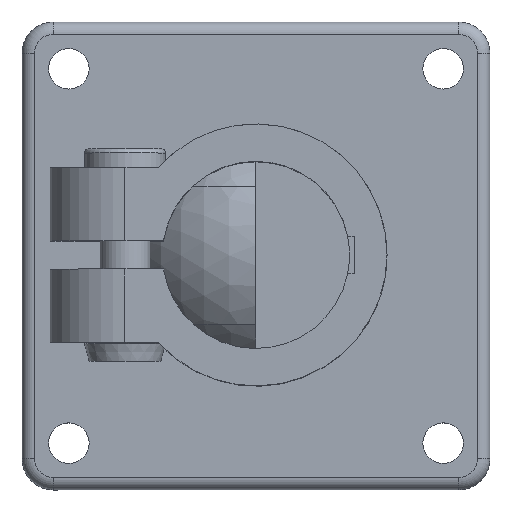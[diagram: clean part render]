
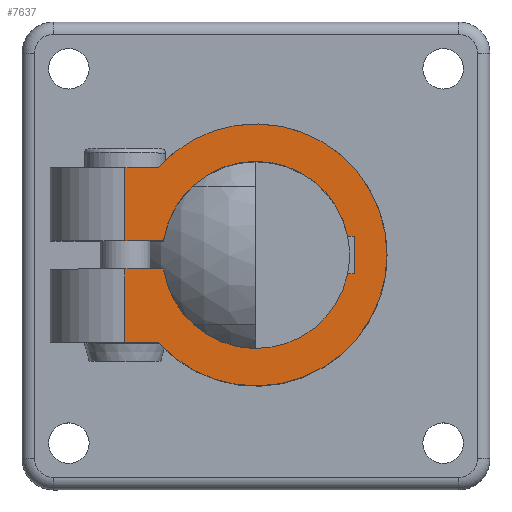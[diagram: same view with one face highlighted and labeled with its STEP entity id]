
A CAD part, top view. The second image highlights one B-rep face of the part: STEP entity #7637.
In plain terms, the highlighted planar face has unit normal (0, 0, 1) as drawn and (-1, 0, 0) by its records, which use the part's own axes.
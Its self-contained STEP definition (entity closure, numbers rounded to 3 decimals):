
#2 = VERTEX_POINT ( 'NONE', #6266 ) ;
#41 = VECTOR ( 'NONE', #778, 1000. ) ;
#160 = DIRECTION ( 'NONE',  ( -1., 0., 0. ) ) ;
#194 = VECTOR ( 'NONE', #310, 1000. ) ;
#212 = VERTEX_POINT ( 'NONE', #3090 ) ;
#265 = AXIS2_PLACEMENT_3D ( 'NONE', #8460, #2691, #1400 ) ;
#305 = VERTEX_POINT ( 'NONE', #2664 ) ;
#310 = DIRECTION ( 'NONE',  ( 0., 0., 1. ) ) ;
#358 = LINE ( 'NONE', #5930, #194 ) ;
#462 = EDGE_CURVE ( 'NONE', #305, #4903, #5751, .T. ) ;
#726 = CARTESIAN_POINT ( 'NONE',  ( -45., -2.25, 14.83 ) ) ;
#778 = DIRECTION ( 'NONE',  ( 0., 1., 0. ) ) ;
#839 = CARTESIAN_POINT ( 'NONE',  ( -45., 2.25, 14.83 ) ) ;
#840 = LINE ( 'NONE', #6463, #4231 ) ;
#971 = VECTOR ( 'NONE', #2153, 1000. ) ;
#998 = DIRECTION ( 'NONE',  ( 0., 0., 1. ) ) ;
#1115 = VECTOR ( 'NONE', #998, 1000. ) ;
#1363 = EDGE_CURVE ( 'NONE', #8976, #3918, #8562, .T. ) ;
#1391 = VECTOR ( 'NONE', #7469, 1000. ) ;
#1400 = DIRECTION ( 'NONE',  ( 0., -0.667, 0.745 ) ) ;
#1418 = EDGE_CURVE ( 'NONE', #3918, #212, #3269, .T. ) ;
#1447 = CARTESIAN_POINT ( 'NONE',  ( -45., 0., 0. ) ) ;
#1453 = DIRECTION ( 'NONE',  ( 0., 0., -1. ) ) ;
#1547 = VERTEX_POINT ( 'NONE', #1776 ) ;
#1554 = CARTESIAN_POINT ( 'NONE',  ( -45., -14., 21. ) ) ;
#1556 = ORIENTED_EDGE ( 'NONE', *, *, #2996, .F. ) ;
#1675 = CARTESIAN_POINT ( 'NONE',  ( -45., 2.25, 21. ) ) ;
#1759 = ORIENTED_EDGE ( 'NONE', *, *, #6742, .F. ) ;
#1776 = CARTESIAN_POINT ( 'NONE',  ( -45., 0., -21. ) ) ;
#1895 = LINE ( 'NONE', #5399, #1391 ) ;
#1948 = PLANE ( 'NONE',  #5117 ) ;
#2032 = ORIENTED_EDGE ( 'NONE', *, *, #7799, .F. ) ;
#2111 = DIRECTION ( 'NONE',  ( 0., 0., 1. ) ) ;
#2128 = CARTESIAN_POINT ( 'NONE',  ( -45., -3., -14.697 ) ) ;
#2153 = DIRECTION ( 'NONE',  ( 0., -1., 0. ) ) ;
#2226 = EDGE_CURVE ( 'NONE', #2918, #2, #4289, .T. ) ;
#2236 = CARTESIAN_POINT ( 'NONE',  ( -45., 2.25, 21. ) ) ;
#2299 = CARTESIAN_POINT ( 'NONE',  ( -45., -14., 21. ) ) ;
#2319 = CIRCLE ( 'NONE', #3508, 21. ) ;
#2491 = ORIENTED_EDGE ( 'NONE', *, *, #1363, .F. ) ;
#2606 = ORIENTED_EDGE ( 'NONE', *, *, #8788, .T. ) ;
#2664 = CARTESIAN_POINT ( 'NONE',  ( -45., -2.25, 14.83 ) ) ;
#2689 = DIRECTION ( 'NONE',  ( -1., 0., 0. ) ) ;
#2691 = DIRECTION ( 'NONE',  ( -1., 0., 0. ) ) ;
#2738 = CARTESIAN_POINT ( 'NONE',  ( -45., 0., 0. ) ) ;
#2828 = DIRECTION ( 'NONE',  ( 0., -0.667, 0.745 ) ) ;
#2854 = CARTESIAN_POINT ( 'NONE',  ( -45., -3., -15.75 ) ) ;
#2918 = VERTEX_POINT ( 'NONE', #2854 ) ;
#2996 = EDGE_CURVE ( 'NONE', #2918, #8162, #358, .T. ) ;
#3079 = VERTEX_POINT ( 'NONE', #5201 ) ;
#3090 = CARTESIAN_POINT ( 'NONE',  ( -45., 3., -14.697 ) ) ;
#3269 = CIRCLE ( 'NONE', #3714, 15. ) ;
#3508 = AXIS2_PLACEMENT_3D ( 'NONE', #2738, #6325, #2828 ) ;
#3623 = CARTESIAN_POINT ( 'NONE',  ( -45., 14., 21. ) ) ;
#3714 = AXIS2_PLACEMENT_3D ( 'NONE', #5917, #160, #5785 ) ;
#3918 = VERTEX_POINT ( 'NONE', #839 ) ;
#4090 = ORIENTED_EDGE ( 'NONE', *, *, #6803, .T. ) ;
#4231 = VECTOR ( 'NONE', #4262, 1000. ) ;
#4262 = DIRECTION ( 'NONE',  ( 0., -1., 0. ) ) ;
#4289 = LINE ( 'NONE', #7094, #41 ) ;
#4361 = DIRECTION ( 'NONE',  ( 0., 0.15, 0.989 ) ) ;
#4514 = AXIS2_PLACEMENT_3D ( 'NONE', #1447, #7120, #4361 ) ;
#4601 = ORIENTED_EDGE ( 'NONE', *, *, #8862, .T. ) ;
#4617 = ORIENTED_EDGE ( 'NONE', *, *, #1418, .F. ) ;
#4826 = CIRCLE ( 'NONE', #265, 21. ) ;
#4903 = VERTEX_POINT ( 'NONE', #7546 ) ;
#5099 = ORIENTED_EDGE ( 'NONE', *, *, #6296, .F. ) ;
#5117 = AXIS2_PLACEMENT_3D ( 'NONE', #6279, #2689, #7022 ) ;
#5201 = CARTESIAN_POINT ( 'NONE',  ( -45., -14., 21. ) ) ;
#5252 = CIRCLE ( 'NONE', #4514, 15. ) ;
#5399 = CARTESIAN_POINT ( 'NONE',  ( -45., 14., 15.652 ) ) ;
#5438 = ORIENTED_EDGE ( 'NONE', *, *, #2226, .T. ) ;
#5459 = ORIENTED_EDGE ( 'NONE', *, *, #8331, .T. ) ;
#5472 = CARTESIAN_POINT ( 'NONE',  ( -45., 3., -14.25 ) ) ;
#5548 = FACE_OUTER_BOUND ( 'NONE', #8040, .T. ) ;
#5557 = EDGE_CURVE ( 'NONE', #7400, #6752, #1895, .T. ) ;
#5657 = VERTEX_POINT ( 'NONE', #8251 ) ;
#5699 = VECTOR ( 'NONE', #8283, 1000. ) ;
#5704 = ORIENTED_EDGE ( 'NONE', *, *, #5557, .F. ) ;
#5751 = LINE ( 'NONE', #726, #6490 ) ;
#5785 = DIRECTION ( 'NONE',  ( 0., 0.15, 0.989 ) ) ;
#5887 = LINE ( 'NONE', #2299, #1115 ) ;
#5917 = CARTESIAN_POINT ( 'NONE',  ( -45., 0., 0. ) ) ;
#5930 = CARTESIAN_POINT ( 'NONE',  ( -45., -3., -14.25 ) ) ;
#6266 = CARTESIAN_POINT ( 'NONE',  ( -45., 3., -15.75 ) ) ;
#6279 = CARTESIAN_POINT ( 'NONE',  ( -45., -21.42, -21. ) ) ;
#6296 = EDGE_CURVE ( 'NONE', #4903, #3079, #7912, .T. ) ;
#6325 = DIRECTION ( 'NONE',  ( -1., 0., 0. ) ) ;
#6463 = CARTESIAN_POINT ( 'NONE',  ( -45., 2.25, 21. ) ) ;
#6490 = VECTOR ( 'NONE', #2111, 1000. ) ;
#6742 = EDGE_CURVE ( 'NONE', #8162, #305, #5252, .T. ) ;
#6752 = VERTEX_POINT ( 'NONE', #3623 ) ;
#6803 = EDGE_CURVE ( 'NONE', #5657, #3079, #5887, .T. ) ;
#7022 = DIRECTION ( 'NONE',  ( 0., 0., 1. ) ) ;
#7094 = CARTESIAN_POINT ( 'NONE',  ( -45., -3., -15.75 ) ) ;
#7120 = DIRECTION ( 'NONE',  ( -1., 0., 0. ) ) ;
#7351 = CARTESIAN_POINT ( 'NONE',  ( -45., 14., 15.652 ) ) ;
#7383 = VECTOR ( 'NONE', #1453, 1000. ) ;
#7400 = VERTEX_POINT ( 'NONE', #7351 ) ;
#7469 = DIRECTION ( 'NONE',  ( 0., 0., 1. ) ) ;
#7546 = CARTESIAN_POINT ( 'NONE',  ( -45., -2.25, 21. ) ) ;
#7637 = ADVANCED_FACE ( 'NONE', ( #5548 ), #1948, .T. ) ;
#7638 = ORIENTED_EDGE ( 'NONE', *, *, #462, .F. ) ;
#7799 = EDGE_CURVE ( 'NONE', #6752, #8976, #840, .T. ) ;
#7912 = LINE ( 'NONE', #1554, #971 ) ;
#8040 = EDGE_LOOP ( 'NONE', ( #1759, #1556, #5438, #5459, #4617, #2491, #2032, #5704, #4601, #2606, #4090, #5099, #7638 ) ) ;
#8162 = VERTEX_POINT ( 'NONE', #2128 ) ;
#8251 = CARTESIAN_POINT ( 'NONE',  ( -45., -14., 15.652 ) ) ;
#8283 = DIRECTION ( 'NONE',  ( 0., 0., 1. ) ) ;
#8331 = EDGE_CURVE ( 'NONE', #2, #212, #8985, .T. ) ;
#8460 = CARTESIAN_POINT ( 'NONE',  ( -45., 0., 0. ) ) ;
#8562 = LINE ( 'NONE', #2236, #7383 ) ;
#8788 = EDGE_CURVE ( 'NONE', #1547, #5657, #4826, .T. ) ;
#8862 = EDGE_CURVE ( 'NONE', #7400, #1547, #2319, .T. ) ;
#8976 = VERTEX_POINT ( 'NONE', #1675 ) ;
#8985 = LINE ( 'NONE', #5472, #5699 ) ;
